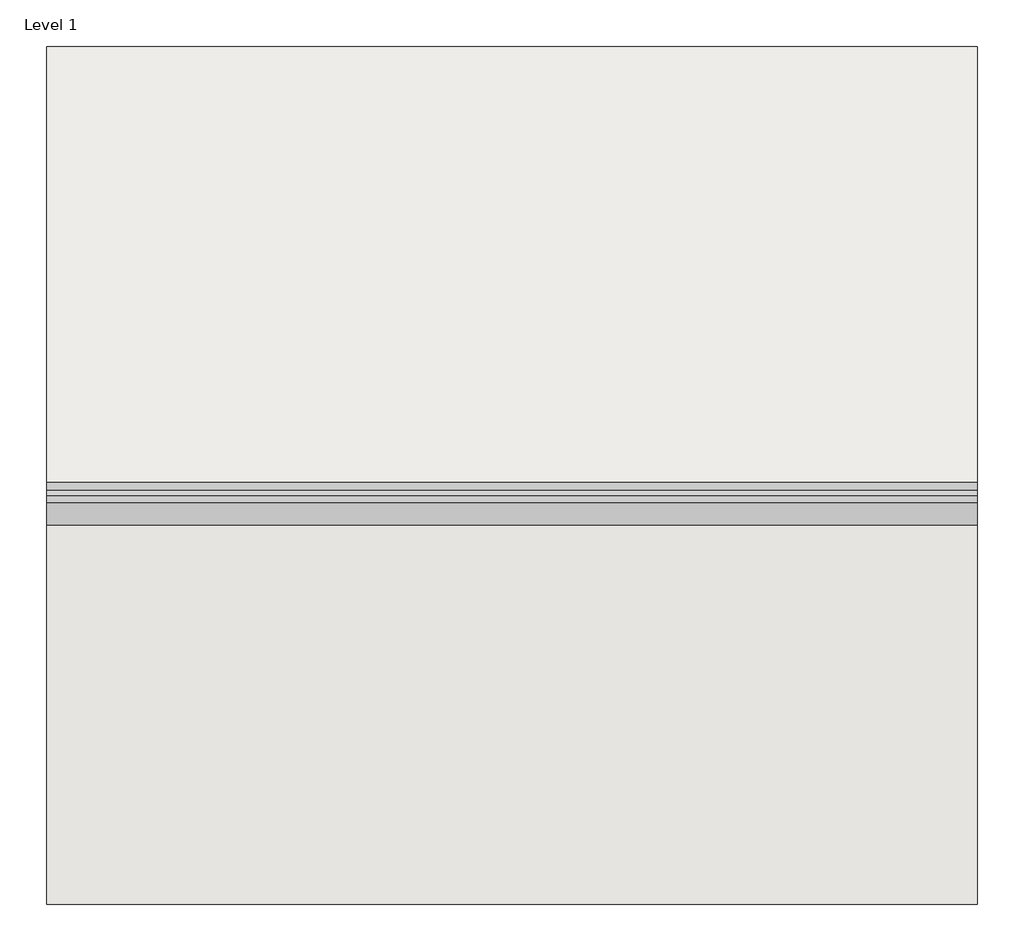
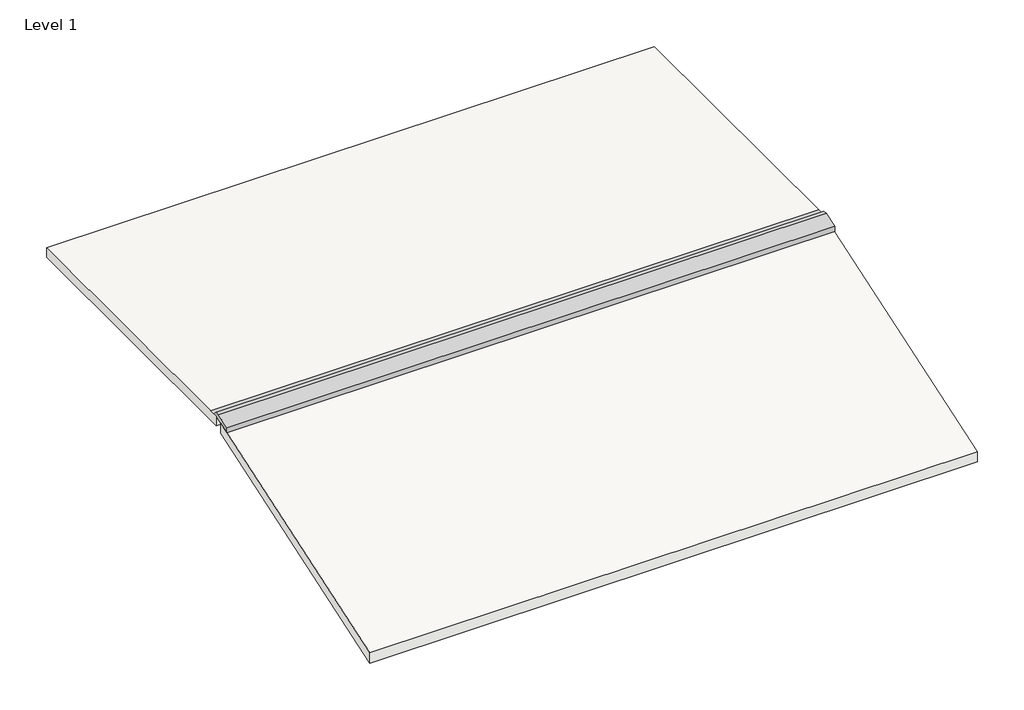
# One storey: 2 roofs, 1 proxy.
"""IFC4 building model written with IfcOpenShell, lengths in millimetres."""

from ifc_helpers import new_model, si_unit, frame, origin, place, context, project, spatial, polyline, outline, extrude, transform, mapped, element, save
from components import specialty_equipment_45a5e4ec

model = new_model("IFC4")

# Units and contexts
model_context = context("Model", 3, world=origin())
ifc_project = project(units=[si_unit("LENGTHUNIT", "METRE", prefix="MILLI")], contexts=[model_context])

# Site, building, storey
site = spatial("IfcSite", under=ifc_project)
building = spatial("IfcBuilding", under=site)
storey = spatial("IfcBuildingStorey", under=building, Name="Level 1", Elevation=0.0)

# Proxy
placement = place(None, origin())
specialty_equipment_shape = specialty_equipment_45a5e4ec(model_context)
element("IfcBuildingElementProxy", 1, Name="Roof_Vent-Metal_Era-Hi_Perf_Ridge_Vent_Sloped_Roof_Meets_Flat_Roof : Roof_Vent-Metal_Era-Hi_Perf_Ridge_Vent_Sloped_Roof_Meets_Flat_Roof", ObjectType="Roof_Vent-Metal_Era-Hi_Perf_Ridge_Vent_Sloped_Roof_Meets_Flat_Roof : Roof_Vent-Metal_Era-Hi_Perf_Ridge_Vent_Sloped_Roof_Meets_Flat_Roof", at=placement, inside=storey, context=model_context, shape_type="MappedRepresentation", body=[
    mapped(specialty_equipment_shape, transform((-8973.5133516, 1891.6346326, 0.0), x_axis=(1.0, 0.0, 0.0), y_axis=(0.0, 1.0, 0.0), z_axis=(0.0, 0.0, 1.0))),
])

# Roofs
element("IfcRoof", 2, ObjectType="Generic - Custom", at=placement, inside=storey, context=model_context, shape_type="SweptSolid", body=[
    extrude(outline(polyline([(511.2677308, -414.0053171), (1806.6677308, 17.7946829), (1806.6677308, -35.7532188), (511.2677308, -467.5532188), (511.2677308, -414.0053171)])), frame((-8973.5133516, 0.0, 0.0), z_axis=(1.0, 0.0, 0.0), x_axis=(0.0, 1.0, 0.0)), (0.0, 0.0, 1.0), 3048.0),
])
element("IfcRoof", 3, ObjectType="Generic - Custom", at=placement, inside=storey, context=model_context, shape_type="SweptSolid", body=[
    extrude(outline(polyline([(-5925.5133516, 1847.1894036), (-8973.5133516, 1847.1894036), (-8973.5133516, 3320.3894036), (-5925.5133516, 3320.3894036), (-5925.5133516, 1847.1894036)])), frame((0.0, 0.0, -19.5019816), z_axis=(0.0, 0.0, 1.0), x_axis=(1.0, 0.0, 0.0)), (0.0, 0.0, 1.0), 50.8),
])

save(model, "model.ifc")
